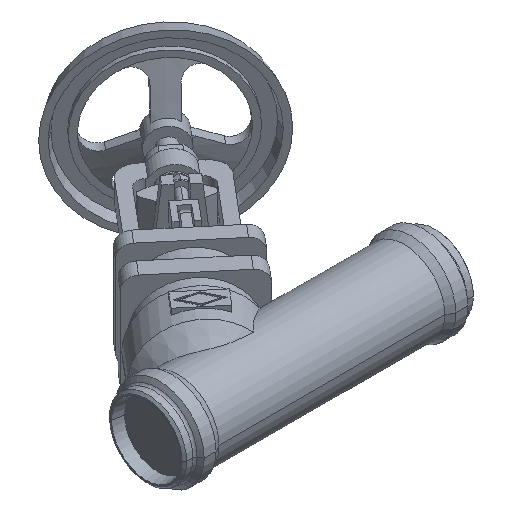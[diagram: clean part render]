
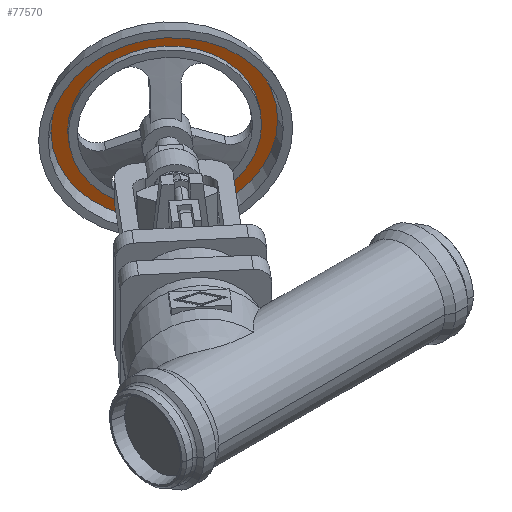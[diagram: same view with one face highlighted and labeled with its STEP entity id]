
A CAD part, isometric view. The second image highlights one B-rep face of the part: STEP entity #77570.
In plain terms, the highlighted planar face has unit normal (-0.643, -0.766, 0).
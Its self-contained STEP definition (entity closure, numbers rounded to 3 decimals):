
#77020=CARTESIAN_POINT('',(342.829,211.505,
0.));
#77030=VERTEX_POINT('',#77020);
#77110=CARTESIAN_POINT('',(219.766,314.767,
0.));
#77120=VERTEX_POINT('',#77110);
#77150=CARTESIAN_POINT('',(281.298,263.136,0.));
#77160=DIRECTION('',(0.643,0.766,
0.));
#77170=DIRECTION('',(-0.766,0.643,
0.));
#77180=AXIS2_PLACEMENT_3D('',#77150,#77160,#77170);
#77190=CIRCLE('',#77180,80.323);
#77200=EDGE_CURVE('',#77030,#77120,#77190,.T.);
#77320=CARTESIAN_POINT('',(224.295,310.967,
0.));
#77330=DIRECTION('',(-0.643,-0.766,0.));
#77340=DIRECTION('',(0.766,-0.643,
0.));
#77350=AXIS2_PLACEMENT_3D('',#77320,#77330,#77340);
#77360=PLANE('',#77350);
#77370=EDGE_CURVE('',#77120,#77030,#77190,.T.);
#77380=ORIENTED_EDGE('',*,*,#77370,.F.);
#77390=ORIENTED_EDGE('',*,*,#77200,.F.);
#77400=EDGE_LOOP('',(#77390,#77380));
#77410=FACE_OUTER_BOUND('',#77400,.T.);
#77420=CARTESIAN_POINT('',(281.298,263.136,0.));
#77430=DIRECTION('',(0.643,0.766,0.));
#77440=DIRECTION('',(-0.766,0.643,
0.));
#77450=AXIS2_PLACEMENT_3D('',#77420,#77430,#77440);
#77460=CIRCLE('',#77450,68.5);
#77470=CARTESIAN_POINT('',(228.823,307.167,
0.));
#77480=VERTEX_POINT('',#77470);
#77490=CARTESIAN_POINT('',(333.772,219.105,
0.));
#77500=VERTEX_POINT('',#77490);
#77510=EDGE_CURVE('',#77480,#77500,#77460,.T.);
#77520=ORIENTED_EDGE('',*,*,#77510,.T.);
#77530=EDGE_CURVE('',#77500,#77480,#77460,.T.);
#77540=ORIENTED_EDGE('',*,*,#77530,.T.);
#77550=EDGE_LOOP('',(#77540,#77520));
#77560=FACE_BOUND('',#77550,.T.);
#77570=ADVANCED_FACE('',(#77410,#77560),#77360,.T.);
